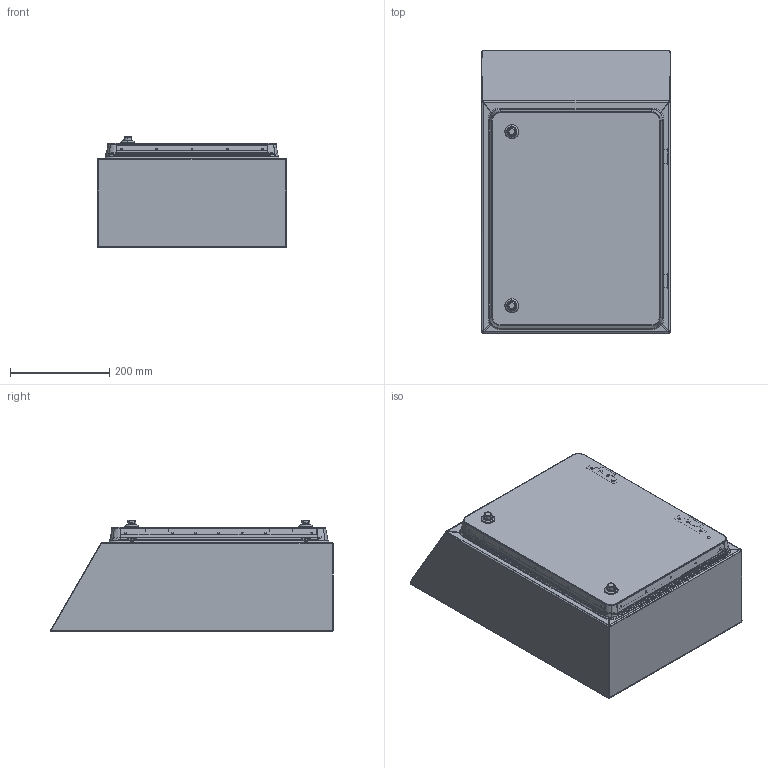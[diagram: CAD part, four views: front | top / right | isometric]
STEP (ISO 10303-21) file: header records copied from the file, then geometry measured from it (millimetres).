
FILE_DESCRIPTION (( 'STEP AP214' ), '1' );
FILE_NAME ('IP-H453821_step.stp', '2025-01-07T05:50:24', ( '' ), ( '' ), 'SwSTEP 2.0', 'SolidWorks 2023', '' );
FILE_SCHEMA (( 'AUTOMOTIVE_DESIGN' ));
Length unit declared in the file: millimetre
Products named in the file (1): IP-H453821_step
Bounding box: 380 x 568.73 x 224.48 mm (x, y, z)
Surface area: 2086951.3 mm2 (no closed solid volume)
Topology: 0 solids, 75 shells, 4775 faces, 11403 edges, 6742 vertices
Faces by surface type: cylinder 1506, plane 1285, torus 993, bspline 745, cone 206, sphere 40
Entity records: 189624 total; most frequent: CARTESIAN_POINT 83293, ORIENTED_EDGE 22678, DIRECTION 21448, EDGE_CURVE 11343, AXIS2_PLACEMENT_3D 8490, VERTEX_POINT 6738, EDGE_LOOP 5003, FACE_OUTER_BOUND 4775
